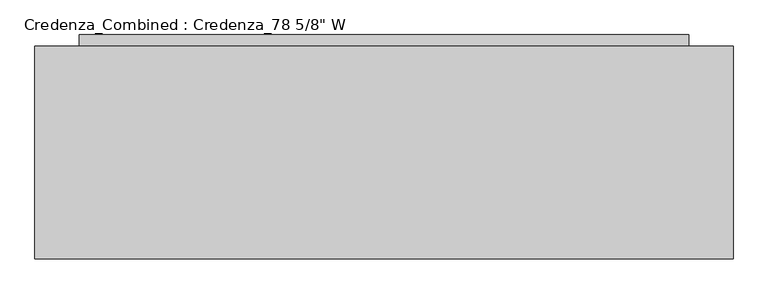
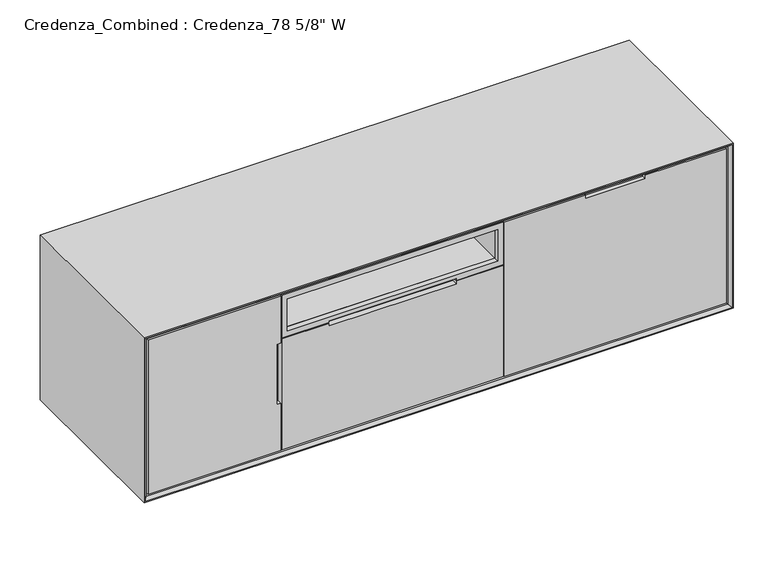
"""IFC4 building model written with IfcOpenShell, lengths in millimetres: furniture geometry."""

from ifc_helpers import new_model, si_unit, frame, origin, origin_with_axes, place, context, project, spatial, polyline, outline, extrude, faceted_brep, source, transform, mapped, element, save


def furniture_ece272e2(model_context):
    return source(origin(), model_context, "Body", "SolidModel", [
        faceted_brep([(1979.6125, 28.575, 659.60625), (1227.1375, 28.575, 659.60625), (1227.1375, 9.525, 659.60625), (1501.775, 9.525, 659.60625), (1501.775, 25.4, 659.60625), (1704.975, 25.4, 659.60625), (1704.975, 9.525, 659.60625), (1979.6125, 9.525, 659.60625), (1979.6125, 28.575, 105.56875), (1979.6125, 9.525, 105.56875), (1227.1375, 9.525, 105.56875), (1227.1375, 28.575, 105.56875), (1704.975, 9.525, 646.90625), (1501.775, 9.525, 646.90625), (1501.775, 25.4, 646.90625), (1704.975, 25.4, 646.90625)], [[[0, 1, 2, 3, 4, 5, 6, 7]], [[8, 9, 10, 11]], [[1, 0, 8, 11]], [[2, 1, 11, 10]], [[10, 9, 7, 6, 12, 13, 3, 2]], [[0, 7, 9, 8]], [[4, 14, 15, 5]], [[14, 4, 3, 13]], [[15, 14, 13, 12]], [[5, 15, 12, 6]]]),
        extrude(outline(polyline([(1979.6125, 609.6), (1979.6125, 28.575), (1227.1375, 28.575), (1227.1375, 609.6), (1979.6125, 609.6)])), frame((0.0, 0.0, 156.36875), z_axis=(0.0, 0.0, 1.0), x_axis=(1.0, 0.0, 0.0)), (0.0, 0.0, 1.0), 19.05),
        extrude(outline(polyline([(1206.5, 609.6), (1206.5, 28.575), (488.95, 28.575), (488.95, 609.6), (1206.5, 609.6)]), holes=[polyline([(501.65, 596.9), (501.65, 41.275), (1192.2125, 41.275), (1192.2125, 596.9), (501.65, 596.9)])]), frame((0.0, 0.0, 118.26875), z_axis=(0.0, 0.0, 1.0), x_axis=(1.0, 0.0, 0.0)), (0.0, 0.0, 1.0), 360.3625),
        extrude(outline(polyline([(642.14375, 1206.5), (642.14375, 488.95), (524.66875, 488.95), (524.66875, 1206.5), (642.14375, 1206.5)]), holes=[polyline([(640.55625, 1204.9125), (526.25625, 1204.9125), (526.25625, 490.5375), (640.55625, 490.5375), (640.55625, 1204.9125)])]), frame((0.0, 28.575, 0.0), z_axis=(0.0, 1.0, 0.0), x_axis=(0.0, 0.0, 1.0)), (0.0, 0.0, 1.0), 581.025),
        extrude(outline(polyline([(504.03125, 471.4875), (105.56875, 471.4875), (105.56875, 1223.9625), (504.03125, 1223.9625), (504.03125, 1063.625), (494.7030946, 1063.625), (494.7030946, 631.825), (504.03125, 631.825), (504.03125, 471.4875)])), frame((0.0, 9.525, 0.0), z_axis=(0.0, 1.0, 0.0), x_axis=(0.0, 0.0, 1.0)), (0.0, 0.0, 1.0), 19.05),
        extrude(outline(polyline([(659.60625, 1223.9625), (659.60625, 471.4875), (507.20625, 471.4875), (507.20625, 631.825), (513.3594054, 631.825), (513.3594054, 1063.625), (507.20625, 1063.625), (507.20625, 1223.9625), (659.60625, 1223.9625)]), holes=[polyline([(640.55625, 490.5375), (640.55625, 1204.9125), (526.25625, 1204.9125), (526.25625, 490.5375), (640.55625, 490.5375)])]), frame((0.0, 9.525, 0.0), z_axis=(0.0, 1.0, 0.0), x_axis=(0.0, 0.0, 1.0)), (0.0, 0.0, 1.0), 19.05),
        extrude(outline(polyline([(1870.075, 609.6), (1870.075, 241.3), (127.0, 241.3), (127.0, 609.6), (1870.075, 609.6)])), origin_with_axes(), (0.0, 0.0, 1.0), 87.3125),
        extrude(outline(polyline([(1870.075, 641.35), (1870.075, 609.6), (127.0, 609.6), (127.0, 641.35), (1870.075, 641.35)])), origin_with_axes(), (0.0, 0.0, 1.0), 647.7),
        extrude(outline(polyline([(665.1625, 1984.375), (665.1625, 12.7), (100.0125, 12.7), (100.0125, 1984.375), (665.1625, 1984.375)]), holes=[polyline([(646.1125, 31.75), (646.1125, 1965.325), (119.0625, 1965.325), (119.0625, 31.75), (646.1125, 31.75)])]), frame((0.0, 31.75, 0.0), z_axis=(0.0, 1.0, 0.0), x_axis=(0.0, 0.0, 1.0)), (0.0, 0.0, 1.0), 577.85),
        faceted_brep([(1984.375, 9.525, 665.1625), (1984.375, 609.6, 665.1625), (1984.375, 609.6, 100.0125), (1984.375, 9.525, 100.0125), (1993.9, 0.0, 674.6875), (1993.9, 0.0, 90.4875), (1997.075, 609.6, 677.8625), (1997.075, 0.0, 677.8625), (1997.075, 0.0, 87.3125), (1997.075, 609.6, 87.3125), (12.7, 609.6, 100.0125), (12.7, 9.525, 100.0125), (3.175, 0.0, 90.4875), (0.0, 0.0, 87.3125), (0.0, 609.6, 87.3125), (12.7, 609.6, 665.1625), (12.7, 9.525, 665.1625), (3.175, 0.0, 674.6875), (0.0, 0.0, 677.8625), (0.0, 609.6, 677.8625)], [[[0, 1, 2, 3]], [[4, 0, 3, 5]], [[6, 7, 8, 9]], [[3, 2, 10, 11]], [[5, 3, 11, 12]], [[9, 8, 13, 14]], [[11, 10, 15, 16]], [[12, 11, 16, 17]], [[14, 13, 18, 19]], [[9, 14, 19, 6], [1, 15, 10, 2]], [[16, 15, 1, 0]], [[17, 16, 0, 4]], [[7, 18, 13, 8], [5, 12, 17, 4]], [[19, 18, 7, 6]]]),
        faceted_brep([(468.3125, 28.575, 659.60625), (19.05, 28.575, 659.60625), (19.05, 9.525, 659.60625), (468.3125, 9.525, 659.60625), (468.3125, 28.575, 105.56875), (468.3125, 9.525, 105.56875), (19.05, 9.525, 105.56875), (19.05, 28.575, 105.56875), (468.3125, 9.525, 274.6375), (455.6125, 9.525, 274.6375), (455.6125, 9.525, 490.5375), (468.3125, 9.525, 490.5375), (468.3125, 25.4, 490.5375), (468.3125, 25.4, 274.6375), (455.6125, 25.4, 490.5375), (455.6125, 25.4, 274.6375)], [[[0, 1, 2, 3]], [[4, 5, 6, 7]], [[1, 0, 4, 7]], [[2, 1, 7, 6]], [[3, 2, 6, 5, 8, 9, 10, 11]], [[0, 3, 11, 12, 13, 8, 5, 4]], [[12, 14, 15, 13]], [[14, 12, 11, 10]], [[15, 14, 10, 9]], [[13, 15, 9, 8]]]),
        extrude(outline(polyline([(468.3125, 609.6), (468.3125, 28.575), (19.05, 28.575), (19.05, 609.6), (468.3125, 609.6)])), frame((0.0, 0.0, 382.5875), z_axis=(0.0, 0.0, 1.0), x_axis=(1.0, 0.0, 0.0)), (0.0, 0.0, 1.0), 19.05),
    ])


if __name__ == "__main__":
    model = new_model("IFC4")
    model_context = context("Model", 3, world=origin())
    ifc_project = project(units=[si_unit("LENGTHUNIT", "METRE", prefix="MILLI")], contexts=[model_context])
    site = spatial("IfcSite", under=ifc_project)
    building = spatial("IfcBuilding", under=site)
    placement = place(None, origin())
    furniture_shape = furniture_ece272e2(model_context)
    element("IfcFurniture", 1, ObjectType="Credenza_Combined : Credenza_78 5/8\" W", at=placement, inside=building, context=model_context, shape_type="MappedRepresentation", body=[
        mapped(furniture_shape, transform((0.0, 0.0, 0.0), x_axis=(1.0, 0.0, 0.0), y_axis=(0.0, 1.0, 0.0), z_axis=(0.0, 0.0, 1.0))),
    ])
    save(model, "model.ifc")
